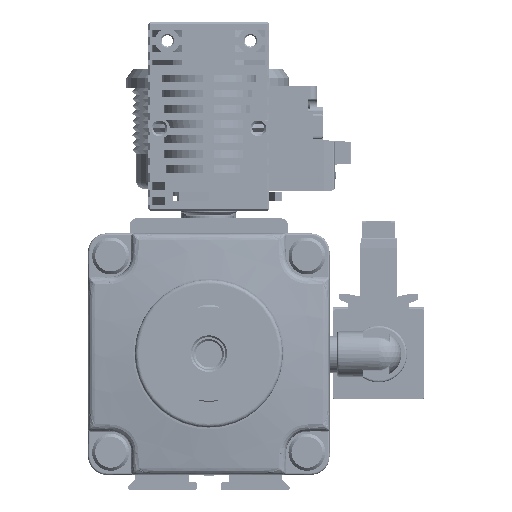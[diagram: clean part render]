
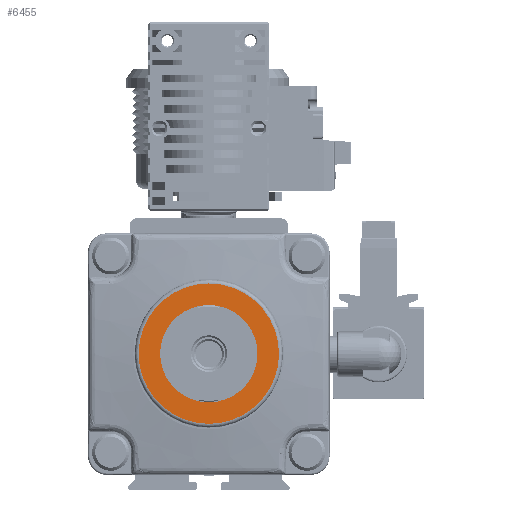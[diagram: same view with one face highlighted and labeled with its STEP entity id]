
A CAD part, left-side view. The second image highlights one B-rep face of the part: STEP entity #6455.
In plain terms, the highlighted planar face has unit normal (-1, 0, 0).
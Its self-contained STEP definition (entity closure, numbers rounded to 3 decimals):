
#6455 = ADVANCED_FACE( '', ( #14650, #14651 ), #14652, .F. );
#14650 = FACE_OUTER_BOUND( '', #25718, .T. );
#14651 = FACE_BOUND( '', #25719, .T. );
#14652 = PLANE( '', #25720 );
#25718 = EDGE_LOOP( '', ( #46950 ) );
#25719 = EDGE_LOOP( '', ( #46951 ) );
#25720 = AXIS2_PLACEMENT_3D( '', #46952, #46953, #46954 );
#46950 = ORIENTED_EDGE( '', *, *, #66511, .T. );
#46951 = ORIENTED_EDGE( '', *, *, #66826, .F. );
#46952 = CARTESIAN_POINT( '', ( -64.5, 0., 0. ) );
#46953 = DIRECTION( '', ( 1., 0., 0. ) );
#46954 = DIRECTION( '', ( 0., 1., 0. ) );
#66511 = EDGE_CURVE( '', #81471, #81471, #81472, .T. );
#66826 = EDGE_CURVE( '', #81899, #81899, #81900, .T. );
#81471 = VERTEX_POINT( '', #104666 );
#81472 = CIRCLE( '', #104667, 18.6 );
#81899 = VERTEX_POINT( '', #105326 );
#81900 = CIRCLE( '', #105327, 12.9 );
#104666 = CARTESIAN_POINT( '', ( -64.5, 0., -18.6 ) );
#104667 = AXIS2_PLACEMENT_3D( '', #119965, #119966, #119967 );
#105326 = CARTESIAN_POINT( '', ( -64.5, 0., -12.9 ) );
#105327 = AXIS2_PLACEMENT_3D( '', #120293, #120294, #120295 );
#119965 = CARTESIAN_POINT( '', ( -64.5, 0., 0. ) );
#119966 = DIRECTION( '', ( -1., 0., 0. ) );
#119967 = DIRECTION( '', ( 0., 0., -1. ) );
#120293 = CARTESIAN_POINT( '', ( -64.5, 0., 0. ) );
#120294 = DIRECTION( '', ( -1., 0., 0. ) );
#120295 = DIRECTION( '', ( 0., 0., -1. ) );
